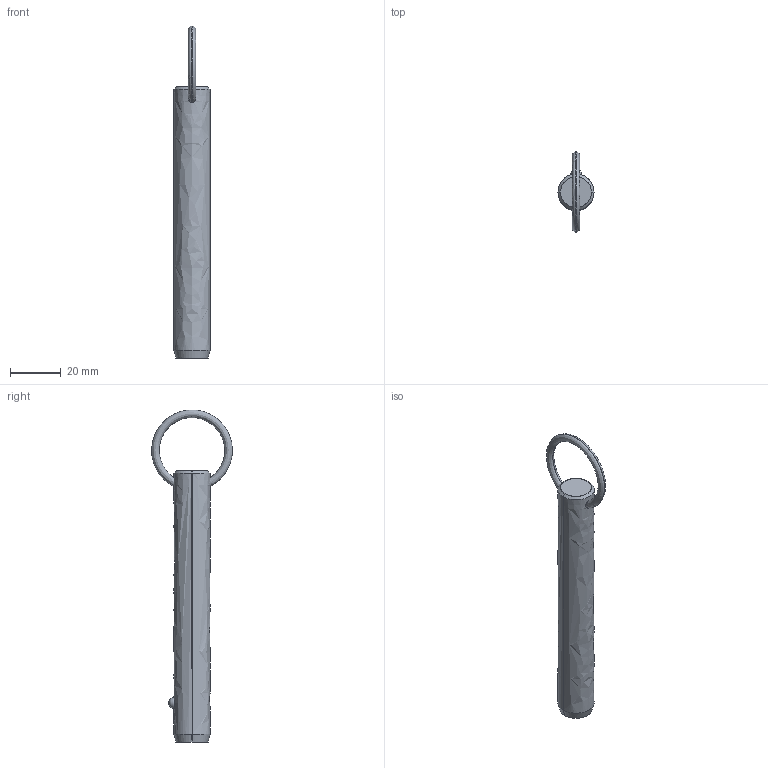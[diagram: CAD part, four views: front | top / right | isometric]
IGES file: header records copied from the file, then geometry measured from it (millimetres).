
Start section: SolidWorks IGES file using analytic representation for surfaces
Global section: file name: C:\Users\liam_\OneDrive\Documents\WORK\Work for WixRoyd\Job Files\J-00019 - Matt Davis CAD Checking\04. CAD Drawings\automotion20190605\P1250.2_v2\P1250.2_v2_20190729_IGES\P1250.056-320.igs; native system: SolidWorks 2017; preprocessor: SolidWorks 2017; author: liam_; date: 190729.232012; units: millimetre
Bounding box: 14.2 x 31.69 x 130.4 mm (x, y, z)
Surface area: 5721.4 mm2 (no closed solid volume)
Topology: 0 solids, 0 shells, 12 faces, 285 edges, 283 vertices
Faces by surface type: revolution 8, bspline 4
